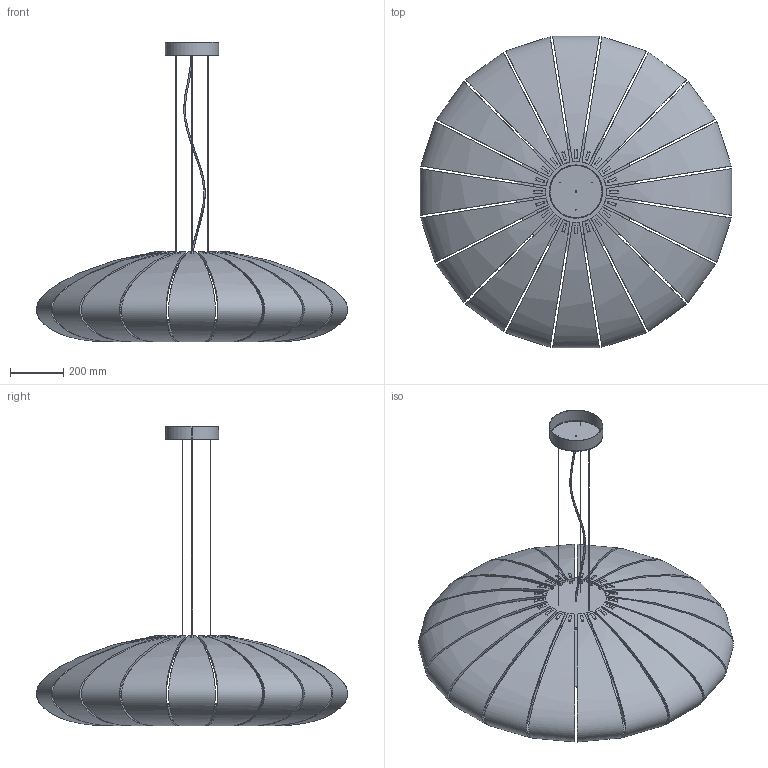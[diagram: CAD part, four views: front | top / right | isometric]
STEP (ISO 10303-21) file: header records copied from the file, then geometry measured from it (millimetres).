
FILE_DESCRIPTION(/* description */ (''),/* implementation_level */ '2;1');
FILE_NAME(/* name */ 'Pumpkin 1200 STEP',/* time_stamp */ '2025-11-10T13:13:06+01:00',/* author */ (''),/* organization */ (''),/* preprocessor_version */ 'ST-DEVELOPER v16.5',/* originating_system */ 'Rhino 7.38',/* authorisation */ '');
FILE_SCHEMA (('CONFIG_CONTROL_DESIGN'));
Length unit declared in the file: millimetre
Products named in the file (1): Document
Bounding box: 1170.33 x 1170.33 x 1124.25 mm (x, y, z)
Volume: 29583948.8 mm3; surface area: 7645312.9 mm2
Topology: 47 solids, 47 shells, 435 faces, 1016 edges, 676 vertices
Faces by surface type: plane 255, bspline 126, cylinder 54
Entity records: 43381 total; most frequent: CARTESIAN_POINT 36939, ORIENTED_EDGE 2032, EDGE_CURVE 1016, VERTEX_POINT 676, EDGE_LOOP 436, ADVANCED_FACE 435, FACE_OUTER_BOUND 435, DIRECTION 313
